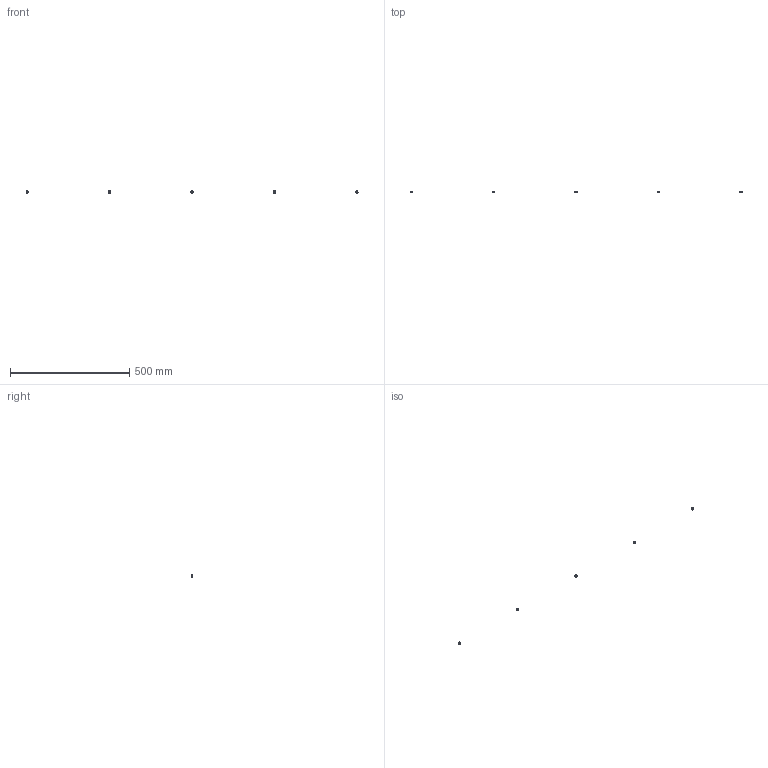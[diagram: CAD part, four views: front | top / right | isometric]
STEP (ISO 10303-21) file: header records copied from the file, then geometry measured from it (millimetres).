
FILE_DESCRIPTION(/* description */ (''),/* implementation_level */ '2;1');
FILE_NAME(/* name */ '8.x-drive#8.7#PWF5',/* time_stamp */ '2014-12-01T20:18:26+01:00',/* author */ (''),/* organization */ (''),/* preprocessor_version */ 'ST-DEVELOPER v14',/* originating_system */ '',/* authorisation */ '');
FILE_SCHEMA (('AUTOMOTIVE_DESIGN'));
Length unit declared in the file: millimetre
Products named in the file (2): Document; washer DIN125-like, form A, M5
Assembly tree (20 placements, depth 2):
  Document
    washer DIN125-like, form A, M5  x20
Bounding box: 1390 x 4 x 9.99 mm (x, y, z)
Surface area: 3225.4 mm2 (no closed solid volume)
Topology: 0 solids, 120 shells, 120 faces, 400 edges, 400 vertices
Faces by surface type: bspline 80, plane 40
Entity records: 695 total; most frequent: CARTESIAN_POINT 277, DIRECTION 48, AXIS2_PLACEMENT_3D 25, B_SPLINE_CURVE_WITH_KNOTS 24, PRODUCT_DEFINITION_SHAPE 22, ITEM_DEFINED_TRANSFORMATION 20, CONTEXT_DEPENDENT_SHAPE_REPRESENTATION 20, NEXT_ASSEMBLY_USAGE_OCCURRENCE 20
